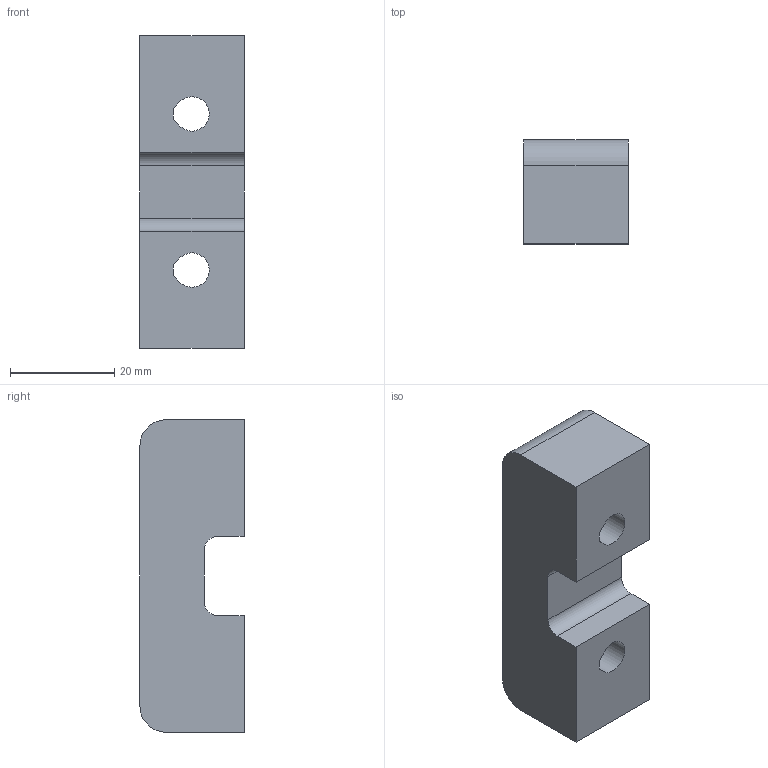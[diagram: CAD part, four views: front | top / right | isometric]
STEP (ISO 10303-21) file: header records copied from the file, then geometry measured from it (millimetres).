
FILE_DESCRIPTION(/* description */ (''),/* implementation_level */ '2;1');
FILE_NAME(/* name */ '54992 - Hose Bracket.step',/* time_stamp */ '2025-10-24T15:25:23-05:00',/* author */ (''),/* organization */ (''),/* preprocessor_version */ 'ST-DEVELOPER v20.1',/* originating_system */ 'Autodesk Translation Framework v14.17.0.0',/* authorisation */ '');
FILE_SCHEMA (('AUTOMOTIVE_DESIGN { 1 0 10303 214 3 1 1 }'));
Length unit declared in the file: millimetre
Products named in the file (1): Hose Hold Down
Bounding box: 20 x 20 x 60 mm (x, y, z)
Volume: 19352.4 mm3; surface area: 6405 mm2
Topology: 1 solids, 1 shells, 32 faces, 84 edges, 56 vertices
Faces by surface type: plane 24, cylinder 8
Entity records: 1032 total; most frequent: CARTESIAN_POINT 173, ORIENTED_EDGE 168, DIRECTION 166, EDGE_CURVE 84, LINE 68, VECTOR 68, VERTEX_POINT 56, AXIS2_PLACEMENT_3D 49
